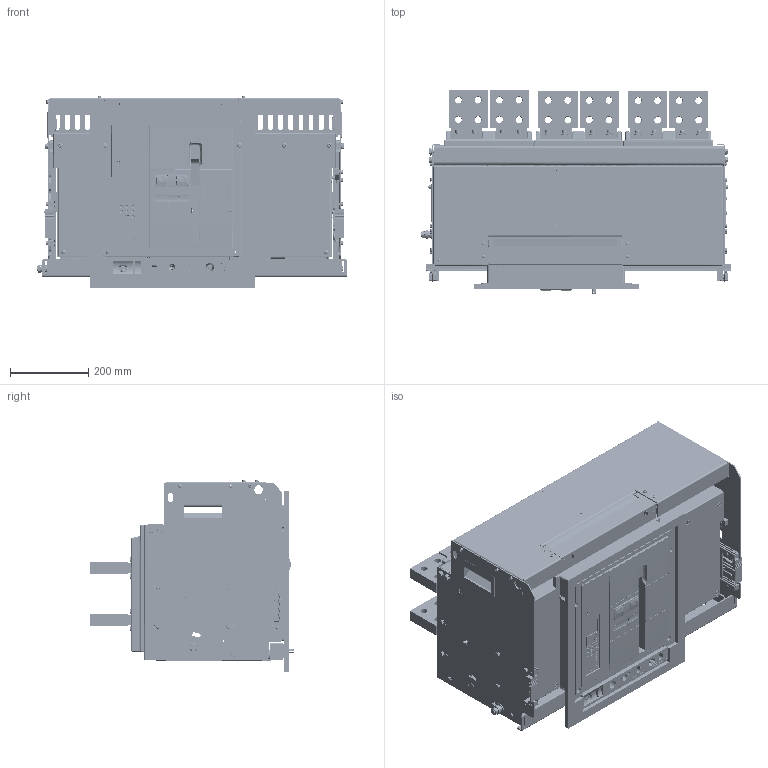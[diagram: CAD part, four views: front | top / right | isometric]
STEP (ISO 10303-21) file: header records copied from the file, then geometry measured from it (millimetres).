
FILE_DESCRIPTION (( 'STEP AP214' ), '1' );
FILE_NAME ('TEW5-6300 D 3P 4900A-6300A.STEP', '2026-04-03T12:52:25', ( '' ), ( '' ), 'SwSTEP 2.0', 'SolidWorks 2024', '' );
FILE_SCHEMA (( 'AUTOMOTIVE_DESIGN' ));
Products named in the file (1): TEW5-6300 D 3P 4900A-6300A
Bounding box: 792 x 520.06 x 492.29 mm (x, y, z)
Surface area: 5645721.3 mm2 (no closed solid volume)
Topology: 0 solids, 6060 shells, 20279 faces, 91039 edges, 74962 vertices
Faces by surface type: plane 10721, cylinder 6933, torus 1243, cone 738, sphere 348, bspline 296
Entity records: 1006598 total; most frequent: CARTESIAN_POINT 298147, DIRECTION 145495, ORIENTED_EDGE 114562, EDGE_CURVE 90929, VERTEX_POINT 74958, LINE 55655, VECTOR 55655, AXIS2_PLACEMENT_3D 44920
